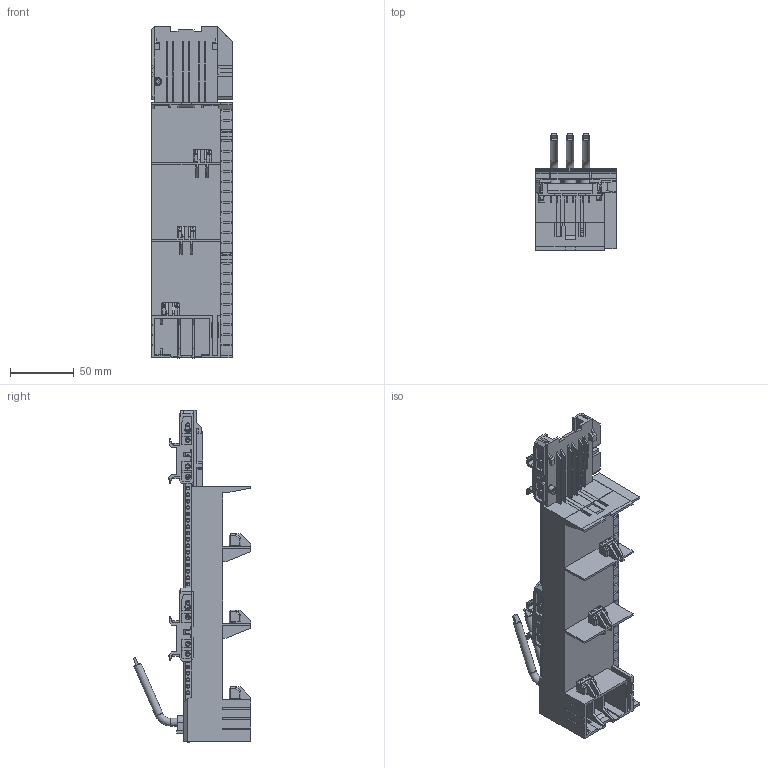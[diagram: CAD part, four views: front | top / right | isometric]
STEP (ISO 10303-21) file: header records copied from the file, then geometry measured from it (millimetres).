
FILE_DESCRIPTION (( 'STEP AP203' ), '1' );
FILE_NAME ('55375.STEP', '2021-08-18T06:36:10', ( '' ), ( '' ), 'SwSTEP 2.0', 'SolidWorks 2017', '' );
FILE_SCHEMA (( 'CONFIG_CONTROL_DESIGN' ));
Length unit declared in the file: millimetre
Products named in the file (2): 55375
Bounding box: 63.05 x 92.2 x 260.2 mm (x, y, z)
Volume: 385616.4 mm3; surface area: 132301.3 mm2
Topology: 9 solids, 26 shells, 2816 faces, 7821 edges, 5246 vertices
Faces by surface type: plane 1980, cylinder 537, cone 224, bspline 72, torus 3
Full cylindrical faces by diameter (mm): 1.988 x176, 2.584 x1, 2.6 x14, 2.982 x12, 3.479 x8, 4.2 x2, 5.169 x2, 5.964 x11, 6 x6
Entity records: 111502 total; most frequent: CARTESIAN_POINT 44236, ORIENTED_EDGE 14404, DIRECTION 12072, EDGE_CURVE 7202, VERTEX_POINT 5069, VECTOR 4816, LINE 4816, AXIS2_PLACEMENT_3D 3628
